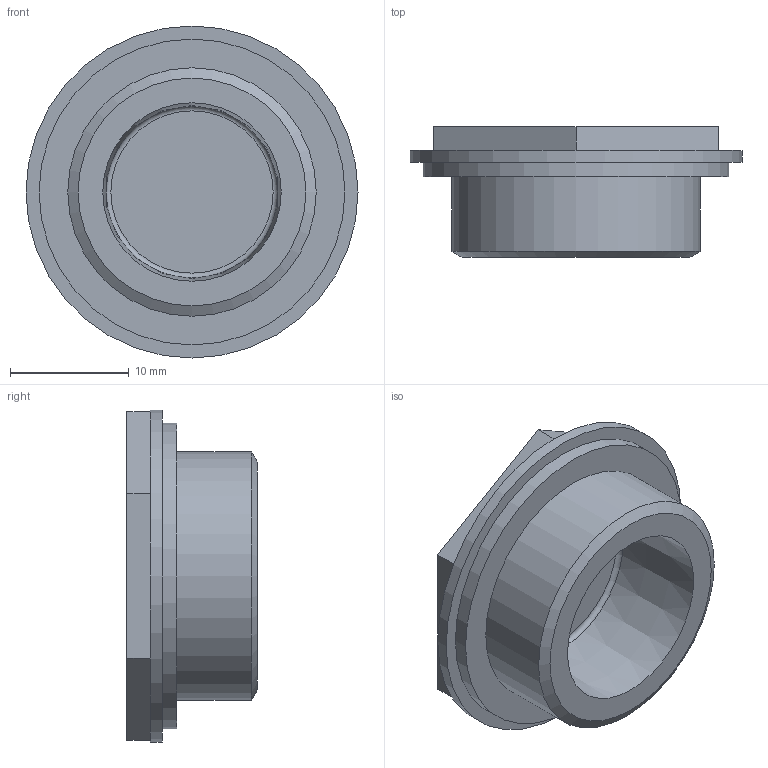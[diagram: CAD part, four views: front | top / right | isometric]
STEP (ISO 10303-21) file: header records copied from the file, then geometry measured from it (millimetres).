
FILE_DESCRIPTION( ( 'STEP AP203' ), '1' );
FILE_NAME( 'C:/Temp/Ganter_Step_05_03_2020/data/3_5/tlt/Oil Level Sight Glass TLT-G1_2.stp', '2020-03-12T13:43:33', ( 'License CC BY-ND 4.0' ), ( 'CADENAS' ), ' ', 'PARTsolutions', ' ' );
FILE_SCHEMA( ( 'CONFIG_CONTROL_DESIGN' ) );
Length unit declared in the file: millimetre
Products named in the file (1): _Oil Level Sight Glass TLT-G1/2
Bounding box: 28 x 11 x 28 mm (x, y, z)
Volume: 2731.6 mm3; surface area: 2416.5 mm2
Topology: 1 solids, 1 shells, 22 faces, 41 edges, 27 vertices
Faces by surface type: plane 14, cylinder 4, cone 3, torus 1
Full cylindrical faces by diameter (mm): 3.143 x1, 20.955 x1, 25.79 x1, 28 x1
Entity records: 546 total; most frequent: DIRECTION 92, CARTESIAN_POINT 81, ORIENTED_EDGE 64, AXIS2_PLACEMENT_3D 37, EDGE_LOOP 36, EDGE_CURVE 32, FACE_OUTER_BOUND 27, VERTEX_POINT 26
